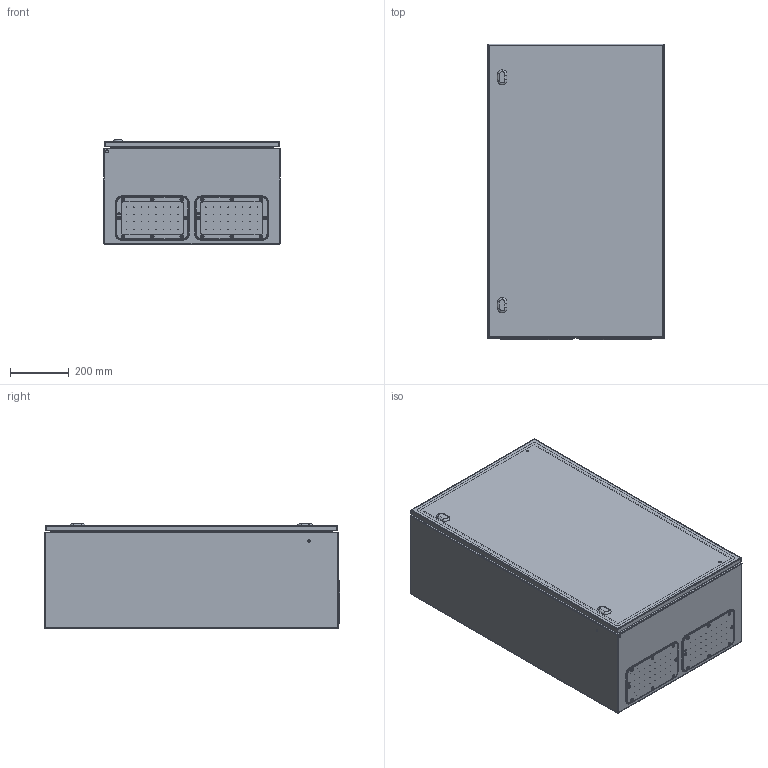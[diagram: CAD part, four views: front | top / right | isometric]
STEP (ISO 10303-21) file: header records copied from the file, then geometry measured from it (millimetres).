
FILE_DESCRIPTION (( 'STEP AP203' ), '1' );
FILE_NAME ('0600x1000x0350 dx.step', '2021-09-07T06:42:05', ( '' ), ( '' ), 'SwSTEP 2.0', 'SolidWorks 2021', '' );
FILE_SCHEMA (( 'CONFIG_CONTROL_DESIGN' ));
Length unit declared in the file: millimetre
Products named in the file (7): AR_ECOR_flangia IC_03; 0600x1000x0350 dx; AR_ECOR_chiusura_std_STD; AR_ECOR_montaggio_porta_singola_0600x1000; AR_ECOR_involucro_0600x1000x0350; AR_ECOR_porta_singola_0600x1000; AR_ECOR_Piastra_18
Assembly tree (8 placements, depth 3):
  0600x1000x0350 dx
    AR_ECOR_involucro_0600x1000x0350
    AR_ECOR_montaggio_porta_singola_0600x1000
      AR_ECOR_porta_singola_0600x1000
      AR_ECOR_chiusura_std_STD  x2
    AR_ECOR_flangia IC_03  x2
    AR_ECOR_Piastra_18
Bounding box: 600 x 1004 x 355 mm (x, y, z)
Volume: 5385855.7 mm3; surface area: 6081589.7 mm2
Topology: 7 solids, 7 shells, 1119 faces, 2785 edges, 1758 vertices
Faces by surface type: cylinder 549, plane 316, cone 108, torus 78, bspline 52, sphere 16
Entity records: 27427 total; most frequent: CARTESIAN_POINT 5506, DIRECTION 4693, ORIENTED_EDGE 4212, EDGE_CURVE 2106, AXIS2_PLACEMENT_3D 1862, VERTEX_POINT 1340, EDGE_LOOP 1142, CIRCLE 1041
